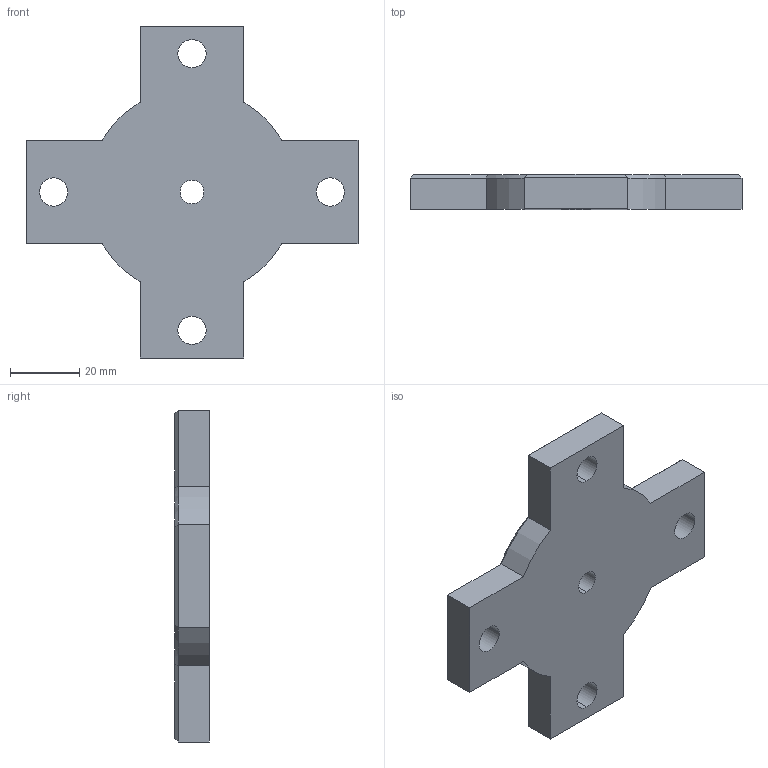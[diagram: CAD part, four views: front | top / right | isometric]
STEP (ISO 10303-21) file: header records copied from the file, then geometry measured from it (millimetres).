
FILE_DESCRIPTION (( 'STEP AP214' ), '1' );
FILE_NAME ('Cone-M8-Base 标定针-M8-外螺纹-基座.STEP', '2020-08-20T14:59:05', ( '' ), ( '' ), 'SwSTEP 2.0', 'SolidWorks 2020', '' );
FILE_SCHEMA (( 'AUTOMOTIVE_DESIGN' ));
Length unit declared in the file: millimetre
Products named in the file (1): Cone-M8-Base 标定针-M8-外螺纹-基座
Bounding box: 96 x 10 x 96 mm (x, y, z)
Volume: 48782.7 mm3; surface area: 14414 mm2
Topology: 1 solids, 1 shells, 44 faces, 110 edges, 68 vertices
Faces by surface type: plane 26, cylinder 14, cone 4
Entity records: 1382 total; most frequent: CARTESIAN_POINT 247, DIRECTION 224, ORIENTED_EDGE 220, EDGE_CURVE 110, AXIS2_PLACEMENT_3D 77, LINE 70, VECTOR 70, VERTEX_POINT 68
